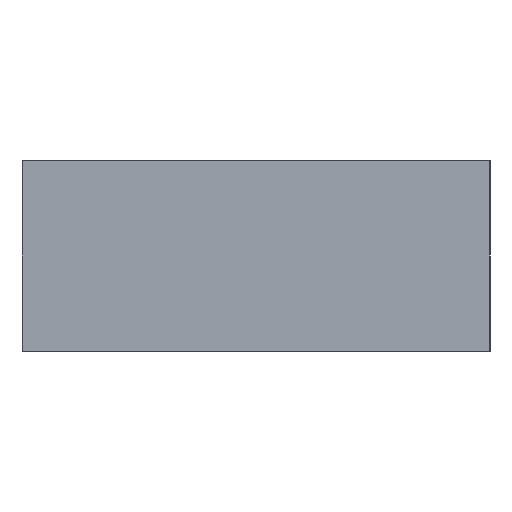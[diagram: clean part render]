
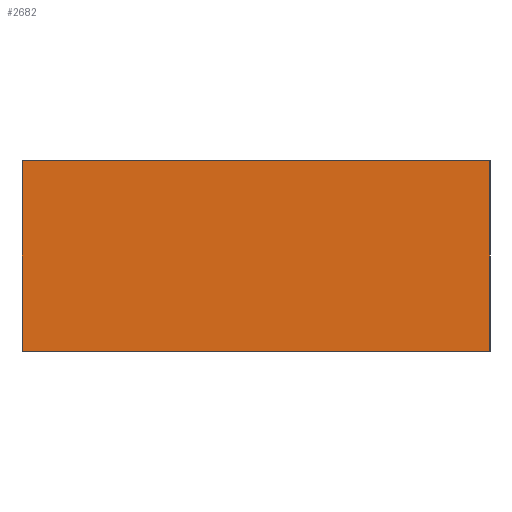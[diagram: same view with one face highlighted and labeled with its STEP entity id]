
A CAD part, left-side view. The second image highlights one B-rep face of the part: STEP entity #2682.
In plain terms, the highlighted planar face has unit normal (-1, 0, 0).
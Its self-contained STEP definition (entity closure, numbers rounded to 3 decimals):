
#311 = CARTESIAN_POINT ( 'NONE',  ( -182., 60.5, 49.3 ) ) ;
#383 = DIRECTION ( 'NONE',  ( 0., 0., -1. ) ) ;
#488 = VECTOR ( 'NONE', #3376, 1000. ) ;
#559 = VERTEX_POINT ( 'NONE', #2438 ) ;
#708 = CARTESIAN_POINT ( 'NONE',  ( -182., 60.5, 49.3 ) ) ;
#714 = LINE ( 'NONE', #2651, #3775 ) ;
#817 = EDGE_CURVE ( 'NONE', #3736, #559, #2931, .T. ) ;
#864 = ORIENTED_EDGE ( 'NONE', *, *, #817, .F. ) ;
#1252 = VERTEX_POINT ( 'NONE', #1534 ) ;
#1447 = CARTESIAN_POINT ( 'NONE',  ( -182., 60.5, 49.3 ) ) ;
#1506 = DIRECTION ( 'NONE',  ( 0., -1., 0. ) ) ;
#1534 = CARTESIAN_POINT ( 'NONE',  ( -182., 60.5, 0. ) ) ;
#1622 = FACE_OUTER_BOUND ( 'NONE', #3052, .T. ) ;
#1645 = DIRECTION ( 'NONE',  ( 0., -1., 0. ) ) ;
#2025 = ORIENTED_EDGE ( 'NONE', *, *, #3022, .F. ) ;
#2141 = AXIS2_PLACEMENT_3D ( 'NONE', #311, #3889, #383 ) ;
#2438 = CARTESIAN_POINT ( 'NONE',  ( -182., -60.5, 49.3 ) ) ;
#2466 = CARTESIAN_POINT ( 'NONE',  ( -182., -60.5, 49.3 ) ) ;
#2543 = CARTESIAN_POINT ( 'NONE',  ( -182., 60.5, 49.3 ) ) ;
#2651 = CARTESIAN_POINT ( 'NONE',  ( -182., 60.5, 0. ) ) ;
#2670 = PLANE ( 'NONE',  #2141 ) ;
#2682 = ADVANCED_FACE ( 'NONE', ( #1622 ), #2670, .F. ) ;
#2742 = ORIENTED_EDGE ( 'NONE', *, *, #4021, .T. ) ;
#2931 = LINE ( 'NONE', #708, #3491 ) ;
#2985 = CARTESIAN_POINT ( 'NONE',  ( -182., -60.5, 0. ) ) ;
#3022 = EDGE_CURVE ( 'NONE', #559, #4724, #4971, .T. ) ;
#3052 = EDGE_LOOP ( 'NONE', ( #4584, #2025, #864, #2742 ) ) ;
#3376 = DIRECTION ( 'NONE',  ( 0., 0., -1. ) ) ;
#3491 = VECTOR ( 'NONE', #1645, 1000. ) ;
#3736 = VERTEX_POINT ( 'NONE', #1447 ) ;
#3775 = VECTOR ( 'NONE', #1506, 1000. ) ;
#3782 = VECTOR ( 'NONE', #4076, 1000. ) ;
#3889 = DIRECTION ( 'NONE',  ( 1., 0., 0. ) ) ;
#4021 = EDGE_CURVE ( 'NONE', #3736, #1252, #4274, .T. ) ;
#4076 = DIRECTION ( 'NONE',  ( 0., 0., -1. ) ) ;
#4274 = LINE ( 'NONE', #2543, #488 ) ;
#4305 = EDGE_CURVE ( 'NONE', #1252, #4724, #714, .T. ) ;
#4584 = ORIENTED_EDGE ( 'NONE', *, *, #4305, .T. ) ;
#4724 = VERTEX_POINT ( 'NONE', #2985 ) ;
#4971 = LINE ( 'NONE', #2466, #3782 ) ;
